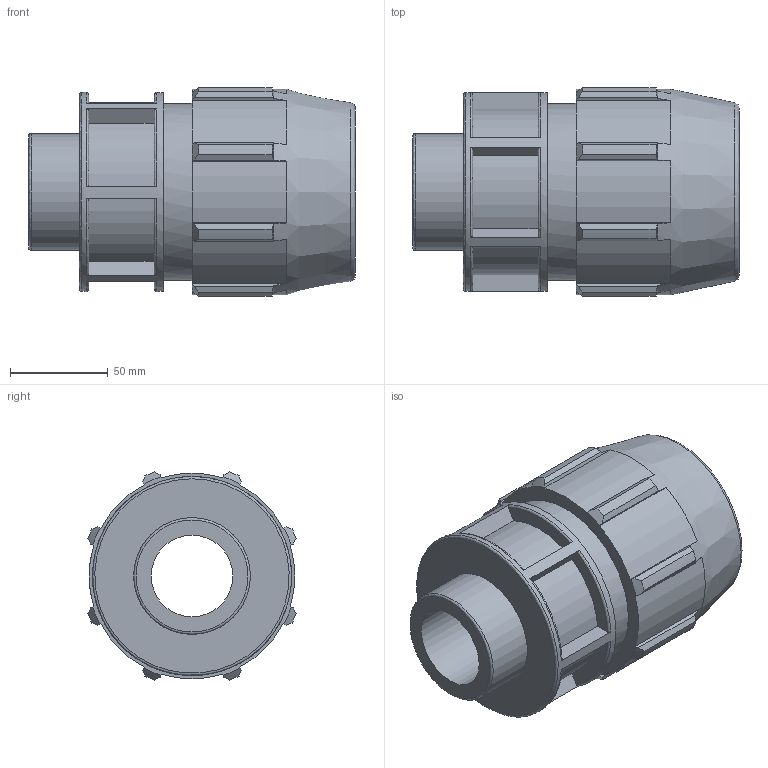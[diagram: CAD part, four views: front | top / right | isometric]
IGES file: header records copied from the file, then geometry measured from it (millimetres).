
Global section: file name: 0702M0T20020.ipt; native system: Autodesk Inventor 2019; preprocessor: unknown; author: KIM; date: 20210826.124450; units: inch
Bounding box: 166.88 x 106.35 x 106.35 mm (x, y, z)
Volume: 694245.8 mm3; surface area: 103958.6 mm2
Topology: 1 solids, 1 shells, 124 faces, 343 edges, 231 vertices
Faces by surface type: plane 63, cylinder 25, revolution 19, cone 17
Full cylindrical faces by diameter (mm): 59.614 x1, 90.424 x1, 101.727 x1
